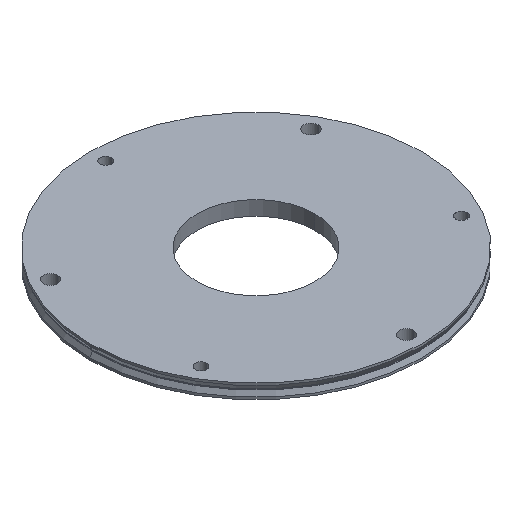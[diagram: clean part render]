
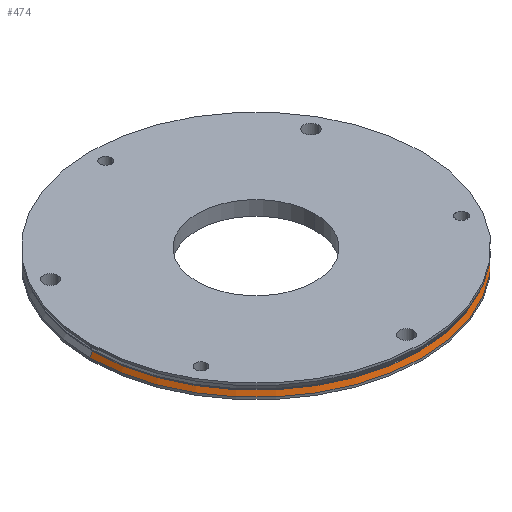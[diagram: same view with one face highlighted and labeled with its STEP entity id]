
A CAD part, isometric view. The second image highlights one B-rep face of the part: STEP entity #474.
In plain terms, the highlighted conical face has half-angle 27.5 degrees and reference radius 127 mm.
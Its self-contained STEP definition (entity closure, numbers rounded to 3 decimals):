
#22 = CARTESIAN_POINT ( 'NONE',  ( 0., 0., -5.869 ) ) ;
#141 = AXIS2_PLACEMENT_3D ( 'NONE', #959, #811, #963 ) ;
#169 = DIRECTION ( 'NONE',  ( -1., 0., 0. ) ) ;
#176 = EDGE_CURVE ( 'NONE', #402, #819, #795, .T. ) ;
#185 = VECTOR ( 'NONE', #885, 1000. ) ;
#200 = AXIS2_PLACEMENT_3D ( 'NONE', #22, #330, #603 ) ;
#241 = CARTESIAN_POINT ( 'NONE',  ( 127., 0., -9.342 ) ) ;
#250 = ORIENTED_EDGE ( 'NONE', *, *, #868, .F. ) ;
#265 = AXIS2_PLACEMENT_3D ( 'NONE', #845, #322, #169 ) ;
#276 = ORIENTED_EDGE ( 'NONE', *, *, #631, .F. ) ;
#322 = DIRECTION ( 'NONE',  ( 0., 0., -1. ) ) ;
#330 = DIRECTION ( 'NONE',  ( 0., 0., 1. ) ) ;
#365 = LINE ( 'NONE', #824, #185 ) ;
#373 = LINE ( 'NONE', #981, #449 ) ;
#402 = VERTEX_POINT ( 'NONE', #499 ) ;
#422 = EDGE_CURVE ( 'NONE', #753, #402, #365, .T. ) ;
#449 = VECTOR ( 'NONE', #670, 1000. ) ;
#461 = CIRCLE ( 'NONE', #200, 125.192 ) ;
#474 = ADVANCED_FACE ( 'NONE', ( #923 ), #666, .T. ) ;
#499 = CARTESIAN_POINT ( 'NONE',  ( -127., 0., -9.342 ) ) ;
#512 = ORIENTED_EDGE ( 'NONE', *, *, #422, .T. ) ;
#603 = DIRECTION ( 'NONE',  ( 1., 0., 0. ) ) ;
#631 = EDGE_CURVE ( 'NONE', #762, #819, #373, .T. ) ;
#666 = CONICAL_SURFACE ( 'NONE', #265, 127., 0.48 ) ;
#670 = DIRECTION ( 'NONE',  ( 0.462, 0., -0.887 ) ) ;
#748 = CARTESIAN_POINT ( 'NONE',  ( -125.192, 0., -5.869 ) ) ;
#753 = VERTEX_POINT ( 'NONE', #748 ) ;
#762 = VERTEX_POINT ( 'NONE', #840 ) ;
#795 = CIRCLE ( 'NONE', #141, 127. ) ;
#811 = DIRECTION ( 'NONE',  ( 0., 0., 1. ) ) ;
#819 = VERTEX_POINT ( 'NONE', #241 ) ;
#824 = CARTESIAN_POINT ( 'NONE',  ( -127., 0., -9.342 ) ) ;
#840 = CARTESIAN_POINT ( 'NONE',  ( 125.192, 0., -5.869 ) ) ;
#845 = CARTESIAN_POINT ( 'NONE',  ( 0., 0., -9.342 ) ) ;
#868 = EDGE_CURVE ( 'NONE', #753, #762, #461, .T. ) ;
#872 = ORIENTED_EDGE ( 'NONE', *, *, #176, .T. ) ;
#885 = DIRECTION ( 'NONE',  ( -0.462, 0., -0.887 ) ) ;
#923 = FACE_OUTER_BOUND ( 'NONE', #933, .T. ) ;
#933 = EDGE_LOOP ( 'NONE', ( #276, #250, #512, #872 ) ) ;
#959 = CARTESIAN_POINT ( 'NONE',  ( 0., 0., -9.342 ) ) ;
#963 = DIRECTION ( 'NONE',  ( 1., 0., 0. ) ) ;
#981 = CARTESIAN_POINT ( 'NONE',  ( 127., 0., -9.342 ) ) ;
